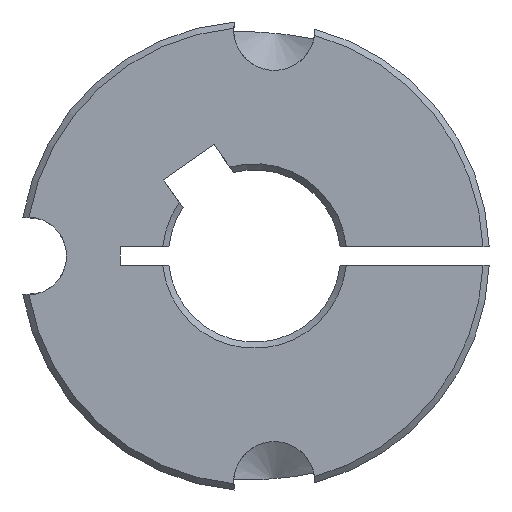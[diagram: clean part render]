
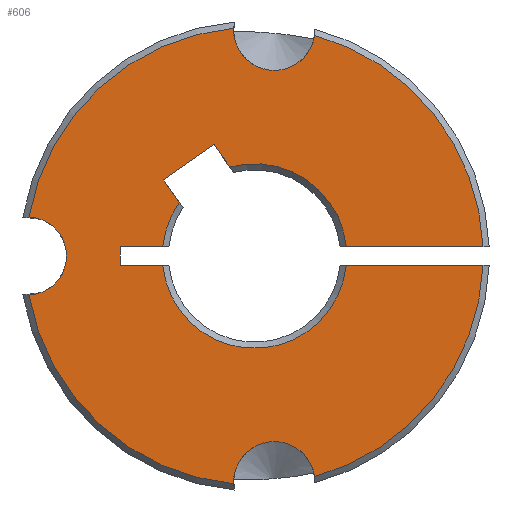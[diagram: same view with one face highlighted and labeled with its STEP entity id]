
A CAD part, left-side view. The second image highlights one B-rep face of the part: STEP entity #606.
In plain terms, the highlighted planar face has unit normal (-1, 0, 0).
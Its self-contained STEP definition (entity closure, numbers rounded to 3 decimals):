
#15=PLANE('',#656);
#26=LINE('',#1039,#58);
#27=LINE('',#1043,#59);
#28=LINE('',#1045,#60);
#29=LINE('',#1047,#61);
#30=LINE('',#1051,#62);
#31=LINE('',#1055,#63);
#32=LINE('',#1059,#64);
#33=LINE('',#1062,#65);
#58=VECTOR('',#754,11.107);
#59=VECTOR('',#757,3.453);
#60=VECTOR('',#758,1.5);
#61=VECTOR('',#759,3.453);
#62=VECTOR('',#762,2.219);
#63=VECTOR('',#765,4.98);
#64=VECTOR('',#768,2.219);
#65=VECTOR('',#771,11.107);
#120=FACE_OUTER_BOUND('',#154,.T.);
#154=EDGE_LOOP('',(#437,#438,#439,#440,#441,#442,#443,#444,#445,#446,#447,
#448,#449,#450,#451,#452,#453,#454,#455,#456));
#180=CIRCLE('',#636,3.3);
#182=CIRCLE('',#640,3.3);
#186=CIRCLE('',#646,18.585);
#190=CIRCLE('',#652,18.585);
#192=CIRCLE('',#655,3.175);
#193=CIRCLE('',#657,18.585);
#194=CIRCLE('',#658,7.5);
#195=CIRCLE('',#659,7.5);
#196=CIRCLE('',#660,0.01);
#197=CIRCLE('',#661,0.01);
#198=CIRCLE('',#662,7.5);
#199=CIRCLE('',#663,18.585);
#232=VERTEX_POINT('',#902);
#233=VERTEX_POINT('',#907);
#238=VERTEX_POINT('',#950);
#239=VERTEX_POINT('',#955);
#245=VERTEX_POINT('',#988);
#250=VERTEX_POINT('',#1014);
#251=VERTEX_POINT('',#1018);
#254=VERTEX_POINT('',#1036);
#255=VERTEX_POINT('',#1038);
#256=VERTEX_POINT('',#1040);
#257=VERTEX_POINT('',#1042);
#258=VERTEX_POINT('',#1044);
#259=VERTEX_POINT('',#1046);
#260=VERTEX_POINT('',#1048);
#261=VERTEX_POINT('',#1050);
#262=VERTEX_POINT('',#1052);
#263=VERTEX_POINT('',#1054);
#264=VERTEX_POINT('',#1056);
#265=VERTEX_POINT('',#1058);
#266=VERTEX_POINT('',#1060);
#297=EDGE_CURVE('',#233,#232,#180,.T.);
#304=EDGE_CURVE('',#239,#238,#182,.T.);
#312=EDGE_CURVE('',#245,#233,#186,.T.);
#319=EDGE_CURVE('',#250,#239,#190,.T.);
#325=EDGE_CURVE('',#251,#245,#192,.T.);
#326=EDGE_CURVE('',#232,#254,#193,.T.);
#327=EDGE_CURVE('',#254,#255,#26,.T.);
#328=EDGE_CURVE('',#256,#255,#194,.T.);
#329=EDGE_CURVE('',#256,#257,#27,.T.);
#330=EDGE_CURVE('',#257,#258,#28,.T.);
#331=EDGE_CURVE('',#258,#259,#29,.T.);
#332=EDGE_CURVE('',#260,#259,#195,.T.);
#333=EDGE_CURVE('',#260,#261,#30,.T.);
#334=EDGE_CURVE('',#261,#262,#196,.T.);
#335=EDGE_CURVE('',#262,#263,#31,.T.);
#336=EDGE_CURVE('',#263,#264,#197,.T.);
#337=EDGE_CURVE('',#264,#265,#32,.T.);
#338=EDGE_CURVE('',#266,#265,#198,.T.);
#339=EDGE_CURVE('',#266,#250,#33,.T.);
#340=EDGE_CURVE('',#238,#251,#199,.T.);
#437=ORIENTED_EDGE('',*,*,#297,.T.);
#438=ORIENTED_EDGE('',*,*,#326,.T.);
#439=ORIENTED_EDGE('',*,*,#327,.T.);
#440=ORIENTED_EDGE('',*,*,#328,.F.);
#441=ORIENTED_EDGE('',*,*,#329,.T.);
#442=ORIENTED_EDGE('',*,*,#330,.T.);
#443=ORIENTED_EDGE('',*,*,#331,.T.);
#444=ORIENTED_EDGE('',*,*,#332,.F.);
#445=ORIENTED_EDGE('',*,*,#333,.T.);
#446=ORIENTED_EDGE('',*,*,#334,.T.);
#447=ORIENTED_EDGE('',*,*,#335,.T.);
#448=ORIENTED_EDGE('',*,*,#336,.T.);
#449=ORIENTED_EDGE('',*,*,#337,.T.);
#450=ORIENTED_EDGE('',*,*,#338,.F.);
#451=ORIENTED_EDGE('',*,*,#339,.T.);
#452=ORIENTED_EDGE('',*,*,#319,.T.);
#453=ORIENTED_EDGE('',*,*,#304,.T.);
#454=ORIENTED_EDGE('',*,*,#340,.T.);
#455=ORIENTED_EDGE('',*,*,#325,.T.);
#456=ORIENTED_EDGE('',*,*,#312,.T.);
#606=ADVANCED_FACE('',(#120),#15,.T.);
#636=AXIS2_PLACEMENT_3D('',#908,#709,#710);
#640=AXIS2_PLACEMENT_3D('',#956,#717,#718);
#646=AXIS2_PLACEMENT_3D('',#989,#729,#730);
#652=AXIS2_PLACEMENT_3D('',#1015,#741,#742);
#655=AXIS2_PLACEMENT_3D('',#1034,#748,#749);
#656=AXIS2_PLACEMENT_3D('',#1035,#750,#751);
#657=AXIS2_PLACEMENT_3D('',#1037,#752,#753);
#658=AXIS2_PLACEMENT_3D('',#1041,#755,#756);
#659=AXIS2_PLACEMENT_3D('',#1049,#760,#761);
#660=AXIS2_PLACEMENT_3D('',#1053,#763,#764);
#661=AXIS2_PLACEMENT_3D('',#1057,#766,#767);
#662=AXIS2_PLACEMENT_3D('',#1061,#769,#770);
#663=AXIS2_PLACEMENT_3D('',#1063,#772,#773);
#709=DIRECTION('center_axis',(1.,0.,0.));
#710=DIRECTION('ref_axis',(0.,0.,1.));
#717=DIRECTION('center_axis',(1.,0.,0.));
#718=DIRECTION('ref_axis',(0.,0.,1.));
#729=DIRECTION('center_axis',(-1.,0.,0.));
#730=DIRECTION('ref_axis',(0.,0.,1.));
#741=DIRECTION('center_axis',(-1.,0.,0.));
#742=DIRECTION('ref_axis',(0.,0.,1.));
#748=DIRECTION('center_axis',(1.,0.,0.));
#749=DIRECTION('ref_axis',(0.,0.,1.));
#750=DIRECTION('center_axis',(-1.,0.,0.));
#751=DIRECTION('ref_axis',(0.,0.,1.));
#752=DIRECTION('center_axis',(-1.,0.,0.));
#753=DIRECTION('ref_axis',(0.,0.,1.));
#754=DIRECTION('',(0.,1.,0.));
#755=DIRECTION('center_axis',(-1.,0.,0.));
#756=DIRECTION('ref_axis',(0.,0.,1.));
#757=DIRECTION('',(0.,1.,0.));
#758=DIRECTION('',(0.,0.,1.));
#759=DIRECTION('',(0.,-1.,0.));
#760=DIRECTION('center_axis',(-1.,0.,0.));
#761=DIRECTION('ref_axis',(0.,0.,1.));
#762=DIRECTION('',(0.,0.574,0.819));
#763=DIRECTION('center_axis',(1.,0.,0.));
#764=DIRECTION('ref_axis',(0.,-0.574,-0.819));
#765=DIRECTION('',(0.,-0.819,0.574));
#766=DIRECTION('center_axis',(1.,0.,0.));
#767=DIRECTION('ref_axis',(0.,0.819,-0.574));
#768=DIRECTION('',(0.,-0.574,-0.819));
#769=DIRECTION('center_axis',(-1.,0.,0.));
#770=DIRECTION('ref_axis',(0.,0.,1.));
#771=DIRECTION('',(0.,-1.,0.));
#772=DIRECTION('center_axis',(-1.,0.,0.));
#773=DIRECTION('ref_axis',(0.,0.,1.));
#902=CARTESIAN_POINT('',(-7.953,-3.532,-17.934));
#907=CARTESIAN_POINT('',(-7.953,3.035,-18.508));
#908=CARTESIAN_POINT('Origin',(-7.953,-0.262,-18.38));
#950=CARTESIAN_POINT('',(-7.953,3.035,18.508));
#955=CARTESIAN_POINT('',(-7.953,-3.532,17.934));
#956=CARTESIAN_POINT('Origin',(-7.953,-0.262,18.38));
#988=CARTESIAN_POINT('',(-7.953,19.658,-3.172));
#989=CARTESIAN_POINT('Origin',(-7.953,1.346,0.));
#1014=CARTESIAN_POINT('',(-7.953,-17.224,0.75));
#1015=CARTESIAN_POINT('Origin',(-7.953,1.346,0.));
#1018=CARTESIAN_POINT('',(-7.953,19.658,3.172));
#1034=CARTESIAN_POINT('Origin',(-7.953,19.796,0.));
#1035=CARTESIAN_POINT('Origin',(-7.953,-6.154,0.));
#1036=CARTESIAN_POINT('',(-7.953,-17.224,-0.75));
#1037=CARTESIAN_POINT('Origin',(-7.953,1.346,0.));
#1038=CARTESIAN_POINT('',(-7.953,-6.117,-0.75));
#1039=CARTESIAN_POINT('',(-7.953,-11.94,-0.75));
#1040=CARTESIAN_POINT('',(-7.953,8.808,-0.75));
#1041=CARTESIAN_POINT('Origin',(-7.953,1.346,0.));
#1042=CARTESIAN_POINT('',(-7.953,12.261,-0.75));
#1043=CARTESIAN_POINT('',(-7.953,1.075,-0.75));
#1044=CARTESIAN_POINT('',(-7.953,12.261,0.75));
#1045=CARTESIAN_POINT('',(-7.953,12.261,-0.375));
#1046=CARTESIAN_POINT('',(-7.953,8.808,0.75));
#1047=CARTESIAN_POINT('',(-7.953,1.327,0.75));
#1048=CARTESIAN_POINT('',(-7.953,7.449,4.358));
#1049=CARTESIAN_POINT('Origin',(-7.953,1.346,0.));
#1050=CARTESIAN_POINT('',(-7.953,8.722,6.176));
#1051=CARTESIAN_POINT('',(-7.953,4.035,-0.518));
#1052=CARTESIAN_POINT('',(-7.953,8.72,6.19));
#1053=CARTESIAN_POINT('Origin',(-7.953,8.714,6.182));
#1054=CARTESIAN_POINT('',(-7.953,4.64,9.046));
#1055=CARTESIAN_POINT('',(-7.953,5.183,8.666));
#1056=CARTESIAN_POINT('',(-7.953,4.626,9.044));
#1057=CARTESIAN_POINT('Origin',(-7.953,4.634,9.038));
#1058=CARTESIAN_POINT('',(-7.953,3.354,7.226));
#1059=CARTESIAN_POINT('',(-7.953,0.092,2.568));
#1060=CARTESIAN_POINT('',(-7.953,-6.117,0.75));
#1061=CARTESIAN_POINT('Origin',(-7.953,1.346,0.));
#1062=CARTESIAN_POINT('',(-7.953,-11.689,0.75));
#1063=CARTESIAN_POINT('Origin',(-7.953,1.346,0.));
